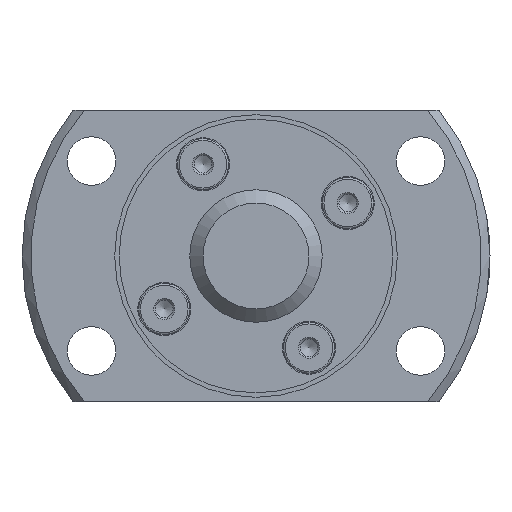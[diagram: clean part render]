
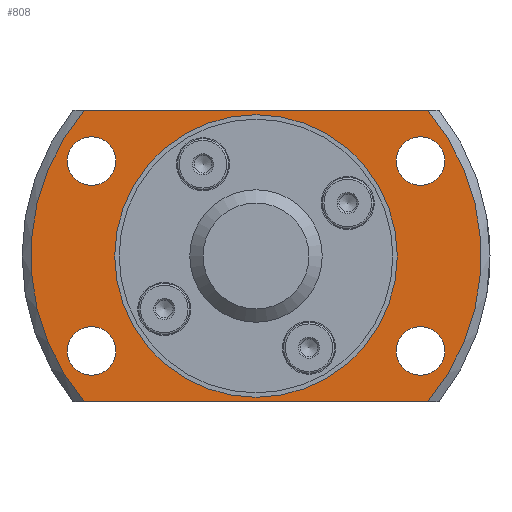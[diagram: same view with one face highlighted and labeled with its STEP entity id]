
A CAD part, left-side view. The second image highlights one B-rep face of the part: STEP entity #808.
In plain terms, the highlighted planar face has unit normal (-1, 0, 0).
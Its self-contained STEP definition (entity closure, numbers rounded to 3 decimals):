
#32=LINE('',#1447,#40);
#33=LINE('',#1448,#41);
#40=VECTOR('',#1127,1000.);
#41=VECTOR('',#1128,1000.);
#171=ORIENTED_EDGE('',*,*,#320,.T.);
#172=ORIENTED_EDGE('',*,*,#321,.F.);
#173=ORIENTED_EDGE('',*,*,#295,.F.);
#174=ORIENTED_EDGE('',*,*,#322,.F.);
#175=ORIENTED_EDGE('',*,*,#318,.F.);
#176=ORIENTED_EDGE('',*,*,#323,.T.);
#177=ORIENTED_EDGE('',*,*,#324,.T.);
#178=ORIENTED_EDGE('',*,*,#325,.T.);
#179=ORIENTED_EDGE('',*,*,#326,.T.);
#295=EDGE_CURVE('',#377,#376,#449,.T.);
#318=EDGE_CURVE('',#396,#397,#467,.T.);
#320=EDGE_CURVE('',#398,#398,#468,.T.);
#321=EDGE_CURVE('',#376,#396,#32,.T.);
#322=EDGE_CURVE('',#397,#377,#33,.T.);
#323=EDGE_CURVE('',#399,#399,#469,.T.);
#324=EDGE_CURVE('',#400,#400,#470,.T.);
#325=EDGE_CURVE('',#401,#401,#471,.T.);
#326=EDGE_CURVE('',#402,#402,#472,.T.);
#376=VERTEX_POINT('',#1370);
#377=VERTEX_POINT('',#1375);
#396=VERTEX_POINT('',#1437);
#397=VERTEX_POINT('',#1439);
#398=VERTEX_POINT('',#1446);
#399=VERTEX_POINT('',#1450);
#400=VERTEX_POINT('',#1452);
#401=VERTEX_POINT('',#1454);
#402=VERTEX_POINT('',#1456);
#449=CIRCLE('',#900,25.5);
#467=CIRCLE('',#929,25.5);
#468=CIRCLE('',#931,16.);
#469=CIRCLE('',#932,2.75);
#470=CIRCLE('',#933,2.75);
#471=CIRCLE('',#934,2.75);
#472=CIRCLE('',#935,2.75);
#548=EDGE_LOOP('',(#171));
#549=EDGE_LOOP('',(#172,#173,#174,#175));
#550=EDGE_LOOP('',(#176));
#551=EDGE_LOOP('',(#177));
#552=EDGE_LOOP('',(#178));
#553=EDGE_LOOP('',(#179));
#678=FACE_BOUND('',#548,.T.);
#679=FACE_BOUND('',#549,.T.);
#680=FACE_BOUND('',#550,.T.);
#681=FACE_BOUND('',#551,.T.);
#682=FACE_BOUND('',#552,.T.);
#683=FACE_BOUND('',#553,.T.);
#775=PLANE('',#930);
#808=ADVANCED_FACE('',(#678,#679,#680,#681,#682,#683),#775,.T.);
#900=AXIS2_PLACEMENT_3D('',#1376,#1061,#1062);
#929=AXIS2_PLACEMENT_3D('',#1438,#1121,#1122);
#930=AXIS2_PLACEMENT_3D('',#1444,#1123,#1124);
#931=AXIS2_PLACEMENT_3D('',#1445,#1125,#1126);
#932=AXIS2_PLACEMENT_3D('',#1449,#1129,#1130);
#933=AXIS2_PLACEMENT_3D('',#1451,#1131,#1132);
#934=AXIS2_PLACEMENT_3D('',#1453,#1133,#1134);
#935=AXIS2_PLACEMENT_3D('',#1455,#1135,#1136);
#1061=DIRECTION('',(1.,0.,0.));
#1062=DIRECTION('',(0.,0.,-1.));
#1121=DIRECTION('',(1.,0.,0.));
#1122=DIRECTION('',(0.,0.,-1.));
#1123=DIRECTION('',(-1.,0.,0.));
#1124=DIRECTION('',(0.,0.,1.));
#1125=DIRECTION('',(1.,0.,0.));
#1126=DIRECTION('',(0.,0.,-1.));
#1127=DIRECTION('',(0.,1.,0.));
#1128=DIRECTION('',(0.,-1.,0.));
#1129=DIRECTION('',(1.,0.,0.));
#1130=DIRECTION('',(0.,0.,-1.));
#1131=DIRECTION('',(1.,0.,0.));
#1132=DIRECTION('',(0.,0.,-1.));
#1133=DIRECTION('',(1.,0.,0.));
#1134=DIRECTION('',(0.,0.,-1.));
#1135=DIRECTION('',(1.,0.,0.));
#1136=DIRECTION('',(0.,0.,-1.));
#1370=CARTESIAN_POINT('',(5.7,-19.442,-16.5));
#1375=CARTESIAN_POINT('',(5.7,-19.442,16.5));
#1376=CARTESIAN_POINT('',(5.7,0.,0.));
#1437=CARTESIAN_POINT('',(5.7,19.442,-16.5));
#1438=CARTESIAN_POINT('',(5.7,0.,0.));
#1439=CARTESIAN_POINT('',(5.7,19.442,16.5));
#1444=CARTESIAN_POINT('',(5.7,25.5,0.));
#1445=CARTESIAN_POINT('',(5.7,0.,0.));
#1446=CARTESIAN_POINT('',(5.7,0.,-16.));
#1447=CARTESIAN_POINT('',(5.7,25.5,-16.5));
#1448=CARTESIAN_POINT('',(5.7,25.5,16.5));
#1449=CARTESIAN_POINT('',(5.7,-18.62,10.75));
#1450=CARTESIAN_POINT('',(5.7,-18.62,8.));
#1451=CARTESIAN_POINT('',(5.7,18.62,-10.75));
#1452=CARTESIAN_POINT('',(5.7,18.62,-13.5));
#1453=CARTESIAN_POINT('',(5.7,-18.62,-10.75));
#1454=CARTESIAN_POINT('',(5.7,-18.62,-13.5));
#1455=CARTESIAN_POINT('',(5.7,18.62,10.75));
#1456=CARTESIAN_POINT('',(5.7,18.62,8.));
